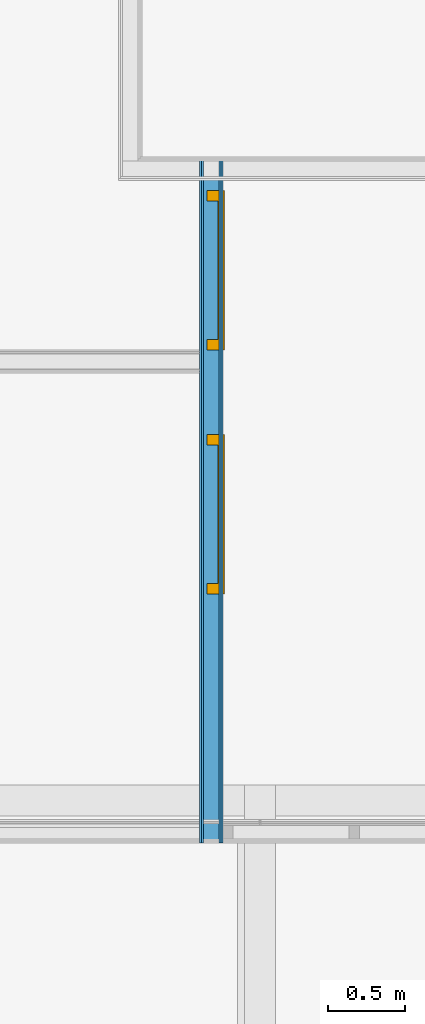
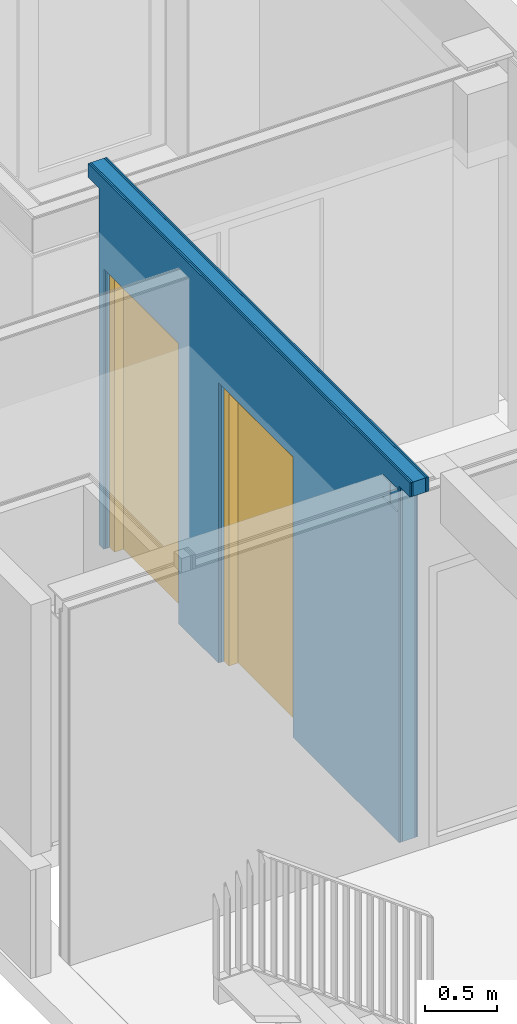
# One storey, part 4 of 13: 5 building element parts, 2 doors, 2 openings, 1 element without a shape of its own.
"""IFC2X3 building model written with IfcOpenShell, lengths in millimetres."""

import ifcopenshell
import ifcopenshell.guid

model = None  # the IFC model being written
_history = None  # IfcOwnerHistory: only IFC2X3 demands one
_inside = {}  # id of a spatial element -> (the spatial element, [elements in it])
_under = {}  # id of a project, library or spatial element -> (it, [spatial elements below it])
_declared = {}  # id of a project -> (the project, [libraries it declares])
_typed = {}  # id of a type object -> (the type object, [elements of that type])
_made_of = {}  # id of a material, layer set ... -> (it, [elements and type objects made of it])


def new_model(schema):
    """Start an empty IFC model of exactly this schema.

    Asked for "IFC4X3", IfcOpenShell would pick the latest addendum, in which some entities
    have other attributes; the version numbers below select the first issue.
    IFC2X3 requires an IfcOwnerHistory on every rooted entity: one is made here for all.
    """
    global model, _history
    if schema == "IFC4X3":
        model = ifcopenshell.file(schema_version=(4, 3, 0, 0))
    else:
        model = ifcopenshell.file(schema=schema)
    _inside.clear()
    _under.clear()
    _declared.clear()
    _typed.clear()
    _made_of.clear()
    _history = None
    if model.schema == "IFC2X3":
        org = make("IfcOrganization", Name="unknown")
        user = make(
            "IfcPersonAndOrganization",
            ThePerson=make("IfcPerson", FamilyName="unknown"),
            TheOrganization=org,
        )
        app = make(
            "IfcApplication",
            ApplicationDeveloper=org,
            Version="unknown",
            ApplicationFullName="unknown",
            ApplicationIdentifier="unknown",
        )
        _history = make(
            "IfcOwnerHistory",
            OwningUser=user,
            OwningApplication=app,
            ChangeAction="ADDED",
            CreationDate=0,
        )
    return model


def make(cls, **values):
    """One entity of the class cls with the attributes given. An attribute that is None is left unset."""
    return model.create_entity(
        cls, **{name: value for name, value in values.items() if value is not None}
    )


def entity(cls, *values):
    """Any entity or typed value of the class cls, its attributes in the order of the schema. None: left unset."""
    e = model.create_entity(cls)
    for i, value in enumerate(values):
        if value is not None:
            e[i] = value
    return e


def rooted(cls, **values):
    """An entity with a GlobalId (a new one), such as an element, a storey or a relation."""
    return make(cls, GlobalId=ifcopenshell.guid.new(), OwnerHistory=_history, **values)


def si_unit(unit_type, name, prefix=None):
    """IfcSIUnit, for example si_unit("LENGTHUNIT", "METRE", prefix="MILLI")."""
    return make("IfcSIUnit", UnitType=unit_type, Prefix=prefix, Name=name)


def converted_unit(unit_type, name, factor, base, dimensions=None, offset=None):
    """IfcConversionBasedUnit, such as the inch: factor (a typed value) times the base unit."""
    return make(
        "IfcConversionBasedUnit"
        if offset is None
        else "IfcConversionBasedUnitWithOffset",
        ConversionOffset=offset,
        Dimensions=None
        if dimensions is None
        else entity("IfcDimensionalExponents", *dimensions),
        UnitType=unit_type,
        Name=name,
        ConversionFactor=make(
            "IfcMeasureWithUnit", ValueComponent=factor, UnitComponent=base
        ),
    )


def derived_unit(unit_type, elements):
    """IfcDerivedUnit: a product of units, each with its exponent."""
    return make(
        "IfcDerivedUnit",
        Elements=[
            make("IfcDerivedUnitElement", Unit=unit, Exponent=power)
            for unit, power in elements
        ],
        UnitType=unit_type,
    )


def money_unit(currency):
    """IfcMonetaryUnit."""
    return make("IfcMonetaryUnit", Currency=currency)


def assignment(units):
    """IfcUnitAssignment: the units of a project."""
    return None if units is None else make("IfcUnitAssignment", Units=units)


def point(xyz):
    """IfcCartesianPoint."""
    return None if xyz is None else make("IfcCartesianPoint", Coordinates=xyz)


def direction(xyz):
    """IfcDirection."""
    return None if xyz is None else make("IfcDirection", DirectionRatios=xyz)


def frame(location, z_axis=None, x_axis=None):
    """IfcAxis2Placement3D, a coordinate frame: its origin and axes. An axis left out is left unset."""
    return make(
        "IfcAxis2Placement3D",
        Location=point(location),
        Axis=direction(z_axis),
        RefDirection=direction(x_axis),
    )


def origin_with_axes():
    """The frame at (0, 0, 0) with the z axis (0, 0, 1) and the x axis (1, 0, 0) written out."""
    return frame((0.0, 0.0, 0.0), z_axis=(0.0, 0.0, 1.0), x_axis=(1.0, 0.0, 0.0))


def place(relative_to, where):
    """IfcLocalPlacement: puts the frame where relative to a parent placement (None: the world)."""
    return make(
        "IfcLocalPlacement", PlacementRelTo=relative_to, RelativePlacement=where
    )


def context(
    kind, dimensions, precision=None, world=None, true_north=None, identifier=None
):
    """IfcGeometricRepresentationContext, for example the 3D "Model" context."""
    return make(
        "IfcGeometricRepresentationContext",
        ContextIdentifier=identifier,
        ContextType=kind,
        CoordinateSpaceDimension=dimensions,
        Precision=precision,
        WorldCoordinateSystem=world,
        TrueNorth=true_north,
    )


def subcontext(parent, identifier, kind, view, scale=None):
    """IfcGeometricRepresentationSubContext, for example "Body" below "Model"."""
    return make(
        "IfcGeometricRepresentationSubContext",
        ContextIdentifier=identifier,
        ContextType=kind,
        ParentContext=parent,
        TargetScale=scale,
        TargetView=view,
    )


def project(units=None, contexts=None):
    """IfcProject with its units and contexts."""
    return rooted(
        "IfcProject",
        Name="project",
        RepresentationContexts=contexts,
        UnitsInContext=assignment(units),
    )


def spatial(cls, under=None, at=None, **own):
    """A site, building, storey or space (cls), placed at a placement, below another one or the project."""
    s = rooted(cls, ObjectPlacement=at, **own)
    if under is not None:
        _under.setdefault(under.id(), (under, []))[1].append(s)
    return s


def faces_of(points, faces, orient=None, outer=None):
    """IfcFace entities. A face is a list of loops; a loop is a list of indices into points, from 0.

    orient and outer hold one flag for each loop. By default every Orientation is true, the
    first loop of a face is its IfcFaceOuterBound and the others are IfcFaceBound.
    """
    made = []
    for i, loops in enumerate(faces):
        bounds = []
        for j, loop in enumerate(loops):
            is_outer = j == 0 if outer is None else outer[i][j]
            bounds.append(
                make(
                    "IfcFaceOuterBound" if is_outer else "IfcFaceBound",
                    Bound=make("IfcPolyLoop", Polygon=[points[k] for k in loop]),
                    Orientation=True if orient is None else orient[i][j],
                )
            )
        made.append(make("IfcFace", Bounds=bounds))
    return made


def faceted_brep(points, faces, orient=None, outer=None, voids=None):
    """IfcFacetedBrep: a solid bounded by flat faces; with voids (closed shells), ...WithVoids."""
    shared = [point(p) for p in points]
    hull = make("IfcClosedShell", CfsFaces=faces_of(shared, faces, orient, outer))
    if voids is None:
        return make("IfcFacetedBrep", Outer=hull)
    return make(
        "IfcFacetedBrepWithVoids",
        Outer=hull,
        Voids=[
            make(cls, CfsFaces=faces_of(shared, fs, o, b)) for cls, fs, o, b in voids
        ],
    )


def shape(context_of_items, identifier, shape_type, items):
    """IfcShapeRepresentation: the items that make up one representation, for example the "Body"."""
    return make(
        "IfcShapeRepresentation",
        ContextOfItems=context_of_items,
        RepresentationIdentifier=identifier,
        RepresentationType=shape_type,
        Items=items,
    )


def source(mapping_origin, context_of_items, identifier, shape_type, items):
    """IfcRepresentationMap: a shape defined once, which mapped items show again and again."""
    return make(
        "IfcRepresentationMap",
        MappingOrigin=mapping_origin,
        MappedRepresentation=shape(context_of_items, identifier, shape_type, items),
    )


def transform(
    local_origin,
    x_axis=None,
    y_axis=None,
    z_axis=None,
    scale=None,
    scale2=None,
    scale3=None,
    uniform=True,
):
    """IfcCartesianTransformationOperator3D, or its non-uniform kind. x_axis, y_axis, z_axis: its Axis1, 2, 3."""
    if uniform:
        return make(
            "IfcCartesianTransformationOperator3D",
            Axis1=direction(x_axis),
            Axis2=direction(y_axis),
            LocalOrigin=point(local_origin),
            Scale=scale,
            Axis3=direction(z_axis),
        )
    return make(
        "IfcCartesianTransformationOperator3DnonUniform",
        Axis1=direction(x_axis),
        Axis2=direction(y_axis),
        LocalOrigin=point(local_origin),
        Scale=scale,
        Axis3=direction(z_axis),
        Scale2=scale2,
        Scale3=scale3,
    )


def mapped(mapping_source, mapping_target):
    """IfcMappedItem: shows the shape of a source again, moved by a transform."""
    return make(
        "IfcMappedItem", MappingSource=mapping_source, MappingTarget=mapping_target
    )


def material(Name=None, Category=None):
    """IfcMaterial."""
    return make("IfcMaterial", Name=Name, Category=Category)


def made_of(thing, what):
    """Note that an element or type object is made of a material, layer set ...; save() writes the relation."""
    if what is not None:
        _made_of.setdefault(what.id(), (what, []))[1].append(thing)
    return thing


def type_object(cls, material=None, **own):
    """A type object (cls), such as IfcWallType, which elements share."""
    return made_of(rooted(cls, **own), material)


def type_shapes(of_type, sources):
    """Give a type object the sources (RepresentationMaps) that its elements show as mapped items."""
    of_type.RepresentationMaps = sources


def element(
    cls,
    number,
    at=None,
    inside=None,
    cuts=None,
    type_object=None,
    material=None,
    context=None,
    identifier="Body",
    shape_type=None,
    held_by="IfcProductDefinitionShape",
    body=None,
    shapes=None,
    **own,
):
    """One element of the class cls, such as IfcWall. Its Tag is "e" and its number.

    at: its placement. inside: the storey or other place that contains it. cuts: it is an
    opening in that element (IfcRelVoidsElement). A single representation is given by context,
    identifier, shape_type and body (its items); several are given by shapes. held_by: the class
    of the entity that holds the representations. save() writes the other relations.
    """
    e = rooted(cls, Tag="e%d" % number, ObjectPlacement=at, **own)
    if body is not None:
        shapes = [shape(context, identifier, shape_type, body)]
    if shapes is not None:
        e.Representation = make(held_by, Representations=shapes)
    if inside is not None:
        _inside.setdefault(inside.id(), (inside, []))[1].append(e)
    if cuts is not None:
        rooted(
            "IfcRelVoidsElement", RelatingBuildingElement=cuts, RelatedOpeningElement=e
        )
    if type_object is not None:
        _typed.setdefault(type_object.id(), (type_object, []))[1].append(e)
    return made_of(e, material)


def fill(opening, filler):
    """IfcRelFillsElement: the door or window that sits in an opening."""
    return rooted(
        "IfcRelFillsElement",
        RelatingOpeningElement=opening,
        RelatedBuildingElement=filler,
    )


def aggregate(whole, parts):
    """IfcRelAggregates: a whole, such as a stair, and the parts it consists of."""
    return rooted("IfcRelAggregates", RelatingObject=whole, RelatedObjects=parts)


def save(model, path):
    """Write the relations noted so far, then the file.

    IfcRelAggregates (storeys below a building ...), IfcRelContainedInSpatialStructure (elements
    in a storey), IfcRelDefinesByType, IfcRelAssociatesMaterial and IfcRelDeclares: one each for
    every whole, place, type object, material and project.
    """
    for whole, parts in _under.values():
        aggregate(whole, parts)
    for where, things in _inside.values():
        rooted(
            "IfcRelContainedInSpatialStructure",
            RelatedElements=things,
            RelatingStructure=where,
        )
    for kind, things in _typed.values():
        rooted("IfcRelDefinesByType", RelatedObjects=things, RelatingType=kind)
    for what, things in _made_of.values():
        rooted("IfcRelAssociatesMaterial", RelatedObjects=things, RelatingMaterial=what)
    for by, libraries in _declared.values():
        rooted("IfcRelDeclares", RelatingContext=by, RelatedDefinitions=libraries)
    model.write(path)


model = new_model("IFC2X3")

# Units and contexts
model_context = context("Model", 3, precision=0.01, world=origin_with_axes(), true_north=direction((0.0, 1.0)))
body_context = subcontext(model_context, "Body", "Model", "MODEL_VIEW")
ifc_project = project(units=[si_unit("LENGTHUNIT", "METRE", prefix="MILLI"), si_unit("AREAUNIT", "SQUARE_METRE"), si_unit("VOLUMEUNIT", "CUBIC_METRE"), converted_unit("PLANEANGLEUNIT", "DEGREE", entity("IfcPlaneAngleMeasure", 0.0174532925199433), si_unit("PLANEANGLEUNIT", "RADIAN"), dimensions=[0, 0, 0, 0, 0, 0, 0]), money_unit("EUR"), converted_unit("TIMEUNIT", "Year", entity("IfcTimeMeasure", 31557600.0), si_unit("TIMEUNIT", "SECOND"), dimensions=[0, 0, 1, 0, 0, 0, 0]), si_unit("MASSUNIT", "GRAM", prefix="KILO"), si_unit("THERMODYNAMICTEMPERATUREUNIT", "DEGREE_CELSIUS"), si_unit("LUMINOUSINTENSITYUNIT", "LUMEN"), si_unit("ENERGYUNIT", "JOULE", prefix="MEGA"), derived_unit("THERMALCONDUCTANCEUNIT", [(si_unit("POWERUNIT", "WATT"), 1), (si_unit("LENGTHUNIT", "METRE"), -1), (si_unit("THERMODYNAMICTEMPERATUREUNIT", "KELVIN"), -1)]), derived_unit("SPECIFICHEATCAPACITYUNIT", [(si_unit("ENERGYUNIT", "JOULE"), 1), (si_unit("MASSUNIT", "GRAM", prefix="KILO"), -1), (si_unit("THERMODYNAMICTEMPERATUREUNIT", "KELVIN"), -1)]), derived_unit("MASSDENSITYUNIT", [(si_unit("MASSUNIT", "GRAM", prefix="KILO"), 1), (si_unit("VOLUMEUNIT", "CUBIC_METRE"), -1)])], contexts=[model_context])

# Site, building, storey
site_placement = place(None, origin_with_axes())
site = spatial("IfcSite", under=ifc_project, at=site_placement, Name="<site naam>", CompositionType="ELEMENT")
building_placement = place(site_placement, origin_with_axes())
building = spatial("IfcBuilding", under=site, at=building_placement, Name="<Naam gebouw>", CompositionType="ELEMENT")
storey_placement = place(building_placement, frame((0.0, 0.0, 3188.0), z_axis=(0.0, 0.0, 1.0), x_axis=(1.0, 0.0, 0.0)))
storey = spatial("IfcBuildingStorey", under=building, at=storey_placement, Name="01 1e tussenverdieping", CompositionType="ELEMENT", Elevation=3188.0)

# Door
door_style = type_object("IfcDoorStyle", Name="D1 27", ConstructionType="NOTDEFINED", OperationType="SINGLE_SWING_LEFT", ParameterTakesPrecedence=False, Sizeable=False)
shared_shape = source(origin_with_axes(), body_context, "Body", "Brep", [
    faceted_brep([(449.9999999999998, -40.0, 0.0), (450.0, -114.0, 0.0), (450.0, -114.0, 2300.0), (450.0, -39.99999999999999, 2300.0), (467.0, -40.0, 0.0), (467.0, 0.0, 0.0), (517.0, 0.0, 0.0), (517.0, -114.0, 0.0), (517.0, -114.0, 2300.0), (467.0, -40.0, 2300.0), (517.0, 0.0, 2300.0), (467.0, 0.0, 2300.0)], [[[0, 1, 2, 3]], [[4, 5, 6, 7, 1, 0]], [[1, 7, 8, 2]], [[9, 3, 2, 8, 10, 11]], [[9, 4, 0, 3]], [[11, 5, 4, 9]], [[11, 10, 6, 5]], [[6, 10, 8, 7]]]),
    faceted_brep([(-467.0, -40.0, 2300.0), (-467.0, 0.0, 2300.0), (-517.0, 0.0, 2300.0), (-517.0, -114.0, 2300.0), (-450.0, -114.0, 2300.0), (-450.0, -39.99999999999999, 2300.0), (-467.0, -40.0, 0.0), (-467.0, 0.0, 0.0), (-517.0, 0.0, 0.0), (-517.0, -114.0, 0.0), (-450.0, -114.0, 0.0), (-450.0, -40.0, 0.0)], [[[0, 1, 2, 3, 4, 5]], [[0, 6, 7, 1]], [[7, 8, 2, 1]], [[2, 8, 9, 3]], [[3, 9, 10, 4]], [[5, 4, 10, 11]], [[5, 11, 6, 0]], [[6, 11, 10, 9, 8, 7]]]),
    faceted_brep([(467.0, 0.0, 2317.0), (-467.0, 0.0, 2317.0), (-467.0, 0.0, 2300.0), (-517.0, 0.0, 2300.0), (-517.0, 0.0, 2367.0), (517.0, 0.0, 2367.0), (517.0, 0.0, 2300.0), (467.0, 0.0, 2300.0), (467.0, -40.0, 2317.0), (-467.0, -40.0, 2317.0), (-467.0, -40.0, 2300.0), (-450.0, -39.99999999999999, 2300.0), (-450.0, -114.0, 2300.0), (-517.0, -114.0, 2300.0), (-517.0, -114.0, 2367.0), (517.0, -114.0, 2367.0), (517.0, -114.0, 2300.0), (467.0, -40.0, 2300.0), (450.0, -114.0, 2300.0), (450.0, -39.99999999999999, 2300.0)], [[[0, 1, 2, 3, 4, 5, 6, 7]], [[0, 8, 9, 1]], [[1, 9, 10, 2]], [[10, 11, 12, 13, 3, 2]], [[4, 3, 13, 14]], [[5, 4, 14, 15]], [[6, 5, 15, 16]], [[17, 7, 6, 16, 18, 19]], [[7, 17, 8, 0]], [[10, 9, 8, 17, 19, 11]], [[19, 18, 12, 11]], [[12, 18, 16, 15, 14, 13]]]),
    faceted_brep([(-467.0000000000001, 0.0, 0.0), (467.0, 0.0, 0.0), (467.0, -40.0, 0.0), (-467.0000000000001, -40.0, 0.0), (-467.0000000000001, 0.0, 2317.0), (467.0, 0.0, 2317.0), (467.0, -40.00000000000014, 2317.0), (-467.0000000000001, -40.00000000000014, 2317.0)], [[[0, 1, 2, 3]], [[0, 4, 5, 1]], [[1, 5, 6, 2]], [[3, 2, 6, 7]], [[4, 0, 3, 7]], [[5, 4, 7, 6]]]),
])
type_shapes(door_style, [shared_shape])
wall_placement = place(storey_placement, frame((54925.00000318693, 16175.00000000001, 0.0), z_axis=(0.0, 0.0, 1.0), x_axis=(0.0, -1.0, 0.0)))
opening_1_placement = place(wall_placement, frame((2317.004634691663, 0.0, 0.0), z_axis=(0.0, 0.0, 1.0), x_axis=(1.0, 0.0, 0.0)))
door_1_placement = place(opening_1_placement, frame((-449.9999999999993, 0.0, 0.0), z_axis=(0.0, 0.0, 1.0), x_axis=(1.0, 0.0, 0.0)))
door_1 = element("IfcDoor", 1, at=door_1_placement, inside=storey, type_object=door_style, Name="22_BI-A-04_305", ObjectType="DOOR", OverallHeight=2367.0, OverallWidth=1034.0, context=body_context, shape_type="MappedRepresentation", body=[
    mapped(shared_shape, transform((449.9999999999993, 84.99999999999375, 0.0))),
])

opening_2_placement = place(wall_placement, frame((733.0046750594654, 0.0, 0.0), z_axis=(0.0, 0.0, 1.0), x_axis=(1.0, 0.0, 0.0)))
door_2_placement = place(opening_2_placement, frame((-449.9999999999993, 0.0, 0.0), z_axis=(0.0, 0.0, 1.0), x_axis=(1.0, 0.0, 0.0)))
door_2 = element("IfcDoor", 2, at=door_2_placement, inside=storey, type_object=door_style, Name="22_BI-A-04_305", ObjectType="DOOR", OverallHeight=2367.0, OverallWidth=1034.0, context=body_context, shape_type="MappedRepresentation", body=[
    mapped(shared_shape, transform((449.9999999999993, 84.99999999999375, 0.0))),
])

# Wall, opening
wall_type = type_object("IfcWallType", Name="MS-01 GF 150 ECO DGS/2.100.2.A 150", PredefinedType="NOTDEFINED")
wall = element("IfcWall", 3, at=wall_placement, inside=storey, type_object=wall_type, Name="22_Binnenwand_MS-01")
opening_1 = element("IfcOpeningElement", 4, at=opening_1_placement, cuts=wall, Name="22_BI-A-04_305", context=body_context, shape_type="Brep", body=[
    faceted_brep([(-516.9999999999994, -76.00000000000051, 2367.0), (-516.9999999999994, -76.00000000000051, 0.0), (516.9999999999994, -76.00000000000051, 0.0), (516.9999999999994, -76.00000000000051, 2367.0), (-516.9999999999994, 76.00000000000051, 2367.0), (-516.9999999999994, 76.00000000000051, 0.0), (516.9999999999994, 76.00000000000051, 0.0), (516.9999999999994, 76.00000000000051, 2367.0)], [[[0, 1, 2, 3]], [[4, 5, 1, 0]], [[5, 6, 2, 1]], [[6, 7, 3, 2]], [[7, 4, 0, 3]], [[6, 5, 4, 7]]]),
])

fill(opening_1, door_1)

# Opening
opening_2 = element("IfcOpeningElement", 5, at=opening_2_placement, cuts=wall, Name="22_BI-A-04_305", context=body_context, shape_type="Brep", body=[
    faceted_brep([(-516.9999999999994, -76.00000000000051, 2367.0), (-516.9999999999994, -76.00000000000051, 0.0), (516.9999999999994, -76.00000000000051, 0.0), (516.9999999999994, -76.00000000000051, 2367.0), (-516.9999999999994, 76.00000000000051, 2367.0), (-516.9999999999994, 76.00000000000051, 0.0), (516.9999999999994, 76.00000000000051, 0.0), (516.9999999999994, 76.00000000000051, 2367.0)], [[[0, 1, 2, 3]], [[4, 5, 1, 0]], [[5, 6, 2, 1]], [[6, 7, 3, 2]], [[7, 4, 0, 3]], [[6, 5, 4, 7]]]),
])

fill(opening_2, door_2)

# Building element part
ifc_material_1 = material(Name="gipsplaat")
building_element_part_1_placement = place(wall_placement, origin_with_axes())
building_element_part_1 = element("IfcBuildingElementPart", 6, at=building_element_part_1_placement, material=ifc_material_1, Name="gipsplaat", context=body_context, shape_type="Brep", body=[
    faceted_brep([(4449.999999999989, 49.99999999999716, 3127.0), (0.0, 49.99999999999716, 3127.000000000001), (0.0, 49.99999999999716, 3006.999999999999), (149.9999999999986, 49.99999999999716, 3006.999999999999), (149.9999999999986, 49.99999999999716, 0.0), (216.0092620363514, 49.99999999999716, 0.0), (216.0092620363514, 49.99999999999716, 3.000000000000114), (1248.304861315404, 49.99999999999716, 3.000000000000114), (1248.304861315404, 49.99999999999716, 0.0), (1800.009285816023, 49.99999999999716, 0.0), (1800.009285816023, 49.99999999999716, 3.000000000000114), (2834.009281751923, 49.99999999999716, 3.000000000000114), (2834.009281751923, 49.99999999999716, 0.0), (4299.999999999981, 49.99999999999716, 0.0), (4299.999999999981, 49.99999999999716, 3006.999999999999), (4449.999999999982, 49.99999999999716, 3006.999999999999), (4170.499989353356, 49.99999999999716, 2961.999993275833), (4074.999986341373, 49.99999999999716, 2961.999993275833), (4074.999986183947, 49.99999999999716, 2977.000000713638), (4274.999992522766, 49.99999999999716, 2977.000000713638), (4274.999992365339, 49.99999999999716, 2961.999993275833), (4179.499989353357, 49.99999999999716, 2961.999993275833), (4179.499989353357, 49.99999999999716, 2791.999999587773), (4274.999992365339, 49.99999999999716, 2791.999999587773), (4274.999992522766, 49.99999999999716, 2776.999992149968), (4074.999986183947, 49.99999999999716, 2776.999992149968), (4074.999986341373, 49.99999999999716, 2791.999999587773), (4170.499989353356, 49.99999999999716, 2791.999999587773), (4449.999999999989, 62.5, 3127.0), (0.0, 62.5, 3127.000000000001), (0.0, 62.5, 3006.999999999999), (149.9999999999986, 62.5, 3006.999999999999), (149.9999999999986, 62.5, 0.0), (216.0092620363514, 62.5, 0.0), (216.0092620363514, 62.5, 3.000000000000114), (1248.304861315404, 62.5, 3.000000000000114), (1248.304861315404, 62.5, 0.0), (1800.009285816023, 62.5, 0.0), (1800.009285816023, 62.5, 3.000000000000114), (2834.009281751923, 62.5, 3.000000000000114), (2834.009281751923, 62.5, 0.0), (4299.999999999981, 62.5, 0.0), (4299.999999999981, 62.5, 3006.999999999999), (4449.999999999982, 62.5, 3006.999999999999), (4170.499989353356, 62.5, 2961.999993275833), (4074.999986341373, 62.5, 2961.999993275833), (4074.999986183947, 62.5, 2977.000000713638), (4274.999992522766, 62.5, 2977.000000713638), (4274.999992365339, 62.5, 2961.999993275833), (4179.499989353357, 62.5, 2961.999993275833), (4179.499989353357, 62.5, 2791.999999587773), (4274.999992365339, 62.5, 2791.999999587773), (4274.999992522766, 62.5, 2776.999992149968), (4074.999986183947, 62.5, 2776.999992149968), (4074.999986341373, 62.5, 2791.999999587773), (4170.499989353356, 62.5, 2791.999999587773)], [[[0, 1, 2, 3, 4, 5, 6, 7, 8, 9, 10, 11, 12, 13, 14, 15], [16, 17, 18, 19, 20, 21, 22, 23, 24, 25, 26, 27]], [[28, 29, 1, 0]], [[2, 1, 29, 30]], [[2, 30, 31, 3]], [[4, 3, 31, 32]], [[32, 33, 5, 4]], [[5, 33, 34, 6]], [[6, 34, 35, 7]], [[7, 35, 36, 8]], [[36, 37, 9, 8]], [[9, 37, 38, 10]], [[10, 38, 39, 11]], [[11, 39, 40, 12]], [[13, 12, 40, 41]], [[14, 13, 41, 42]], [[43, 15, 14, 42]], [[28, 0, 15, 43]], [[44, 45, 17, 16]], [[45, 46, 18, 17]], [[46, 47, 19, 18]], [[47, 48, 20, 19]], [[48, 49, 21, 20]], [[49, 50, 22, 21]], [[50, 51, 23, 22]], [[51, 52, 24, 23]], [[52, 53, 25, 24]], [[53, 54, 26, 25]], [[54, 55, 27, 26]], [[55, 44, 16, 27]], [[30, 29, 28, 43, 42, 41, 40, 39, 38, 37, 36, 35, 34, 33, 32, 31], [48, 47, 46, 45, 44, 55, 54, 53, 52, 51, 50, 49]]]),
])

ifc_material_2 = material(Name="isolatie_steenwol LSW")
building_element_part_2_placement = place(wall_placement, origin_with_axes())
building_element_part_2 = element("IfcBuildingElementPart", 7, at=building_element_part_2_placement, material=ifc_material_2, Name="isolatie_steenwol LSW", context=body_context, shape_type="Brep", body=[
    faceted_brep([(4449.999999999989, -49.99999999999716, 3127.0), (0.0, -49.99999999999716, 3127.000000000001), (0.0, -49.99999999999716, 3006.999999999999), (149.9999999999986, -49.99999999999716, 3006.999999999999), (149.9999999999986, -49.99999999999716, 0.0), (216.0092620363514, -49.99999999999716, 0.0), (216.0092620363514, -49.99999999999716, 3.000000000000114), (1248.304861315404, -49.99999999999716, 3.000000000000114), (1248.304861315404, -49.99999999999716, 0.0), (1800.009285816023, -49.99999999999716, 0.0), (1800.009285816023, -49.99999999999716, 3.000000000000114), (2834.009281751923, -49.99999999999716, 3.000000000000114), (2834.009281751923, -49.99999999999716, 0.0), (4299.999999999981, -49.99999999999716, 0.0), (4299.999999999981, -49.99999999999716, 3006.999999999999), (4449.999999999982, -49.99999999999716, 3006.999999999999), (4170.499989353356, -49.99999999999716, 2961.999993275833), (4074.999986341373, -49.99999999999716, 2961.999993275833), (4074.999986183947, -49.99999999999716, 2977.000000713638), (4274.999992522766, -49.99999999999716, 2977.000000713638), (4274.999992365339, -49.99999999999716, 2961.999993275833), (4179.499989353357, -49.99999999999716, 2961.999993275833), (4179.499989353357, -49.99999999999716, 2791.999999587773), (4274.999992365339, -49.99999999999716, 2791.999999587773), (4274.999992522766, -49.99999999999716, 2776.999992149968), (4074.999986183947, -49.99999999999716, 2776.999992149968), (4074.999986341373, -49.99999999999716, 2791.999999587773), (4170.499989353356, -49.99999999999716, 2791.999999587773), (4449.999999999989, 49.99999999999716, 3127.0), (0.0, 49.99999999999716, 3127.000000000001), (0.0, 49.99999999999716, 3006.999999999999), (149.9999999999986, 49.99999999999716, 3006.999999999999), (149.9999999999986, 50.00000000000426, 0.0), (216.0092620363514, 50.00000000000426, 0.0), (216.0092620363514, 50.00000000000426, 3.000000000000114), (1248.304861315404, 50.00000000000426, 3.000000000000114), (1248.304861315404, 50.00000000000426, 0.0), (1800.009285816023, 50.00000000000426, 0.0), (1800.009285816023, 50.00000000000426, 3.000000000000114), (2834.009281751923, 50.00000000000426, 3.000000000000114), (2834.009281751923, 49.99999999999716, 0.0), (4299.999999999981, 49.99999999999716, 0.0), (4299.999999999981, 49.99999999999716, 3006.999999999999), (4449.999999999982, 49.99999999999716, 3006.999999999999), (4170.499989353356, 49.99999999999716, 2961.999993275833), (4074.999986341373, 49.99999999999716, 2961.999993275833), (4074.999986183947, 49.99999999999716, 2977.000000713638), (4274.999992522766, 49.99999999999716, 2977.000000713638), (4274.999992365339, 49.99999999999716, 2961.999993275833), (4179.499989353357, 49.99999999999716, 2961.999993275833), (4179.499989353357, 49.99999999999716, 2791.999999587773), (4274.999992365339, 49.99999999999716, 2791.999999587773), (4274.999992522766, 49.99999999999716, 2776.999992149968), (4074.999986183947, 49.99999999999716, 2776.999992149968), (4074.999986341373, 49.99999999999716, 2791.999999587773), (4170.499989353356, 49.99999999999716, 2791.999999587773)], [[[0, 1, 2, 3, 4, 5, 6, 7, 8, 9, 10, 11, 12, 13, 14, 15], [16, 17, 18, 19, 20, 21, 22, 23, 24, 25, 26, 27]], [[28, 29, 1, 0]], [[2, 1, 29, 30]], [[2, 30, 31, 3]], [[4, 3, 31, 32]], [[32, 33, 5, 4]], [[5, 33, 34, 6]], [[6, 34, 35, 7]], [[7, 35, 36, 8]], [[36, 37, 9, 8]], [[9, 37, 38, 10]], [[10, 38, 39, 11]], [[11, 39, 40, 12]], [[13, 12, 40, 41]], [[14, 13, 41, 42]], [[43, 15, 14, 42]], [[28, 0, 15, 43]], [[44, 45, 17, 16]], [[45, 46, 18, 17]], [[46, 47, 19, 18]], [[47, 48, 20, 19]], [[48, 49, 21, 20]], [[49, 50, 22, 21]], [[50, 51, 23, 22]], [[51, 52, 24, 23]], [[52, 53, 25, 24]], [[53, 54, 26, 25]], [[54, 55, 27, 26]], [[55, 44, 16, 27]], [[30, 29, 28, 43, 42, 41, 40, 39, 38, 37, 36, 35, 34, 33, 32, 31], [48, 47, 46, 45, 44, 55, 54, 53, 52, 51, 50, 49]]]),
])

building_element_part_3_placement = place(wall_placement, origin_with_axes())
building_element_part_3 = element("IfcBuildingElementPart", 8, at=building_element_part_3_placement, material=ifc_material_1, Name="gipsplaat", context=body_context, shape_type="Brep", body=[
    faceted_brep([(4449.999999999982, 62.5, 3006.999999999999), (4449.999999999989, 62.5, 3127.0), (0.0, 62.5, 3127.000000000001), (0.0, 62.5, 3006.999999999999), (149.9999999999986, 62.5, 3006.999999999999), (149.9999999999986, 62.5, 0.0), (216.0092620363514, 62.5, 0.0), (216.0092620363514, 62.5, 3.000000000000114), (1248.304861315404, 62.5, 3.000000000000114), (1248.304861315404, 62.5, 0.0), (1800.009285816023, 62.5, 0.0), (1800.009285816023, 62.5, 3.000000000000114), (2834.009281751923, 62.5, 3.000000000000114), (2834.009281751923, 62.5, 0.0), (4299.999999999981, 62.5, 0.0), (4299.999999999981, 62.5, 3006.999999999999), (4170.499989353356, 62.5, 2791.999999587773), (4170.499989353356, 62.5, 2961.999993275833), (4074.999986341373, 62.5, 2961.999993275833), (4074.999986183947, 62.5, 2977.000000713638), (4274.999992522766, 62.5, 2977.000000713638), (4274.999992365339, 62.5, 2961.999993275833), (4179.499989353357, 62.5, 2961.999993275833), (4179.499989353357, 62.5, 2791.999999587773), (4274.999992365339, 62.5, 2791.999999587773), (4274.999992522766, 62.5, 2776.999992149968), (4074.999986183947, 62.5, 2776.999992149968), (4074.999986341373, 62.5, 2791.999999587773), (4449.999999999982, 75.00000000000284, 3006.999999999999), (4449.999999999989, 75.00000000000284, 3127.0), (0.0, 75.00000000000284, 3127.000000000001), (0.0, 75.00000000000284, 3006.999999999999), (149.9999999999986, 75.00000000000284, 3006.999999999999), (149.9999999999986, 75.00000000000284, 0.0), (4299.999999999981, 75.00000000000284, 0.0), (2834.009281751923, 74.83591347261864, 0.0), (1800.009285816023, 74.83591347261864, 0.0), (1248.304861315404, 74.73782256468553, 0.0), (216.0092620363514, 74.73782256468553, 0.0), (216.0092620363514, 74.73782256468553, 3.000000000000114), (1248.304861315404, 74.73782256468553, 3.000000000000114), (1800.009285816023, 74.83591347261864, 3.000000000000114), (2834.009281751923, 74.83591347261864, 3.000000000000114), (4299.999999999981, 75.00000000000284, 3006.999999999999), (4170.499989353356, 75.00000000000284, 2791.999999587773), (4170.499989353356, 75.00000000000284, 2961.999993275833), (4074.999986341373, 75.00000000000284, 2961.999993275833), (4074.999986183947, 75.00000000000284, 2977.000000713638), (4274.999992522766, 75.00000000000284, 2977.000000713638), (4274.999992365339, 75.00000000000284, 2961.999993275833), (4179.499989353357, 75.00000000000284, 2961.999993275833), (4179.499989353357, 75.00000000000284, 2791.999999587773), (4274.999992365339, 75.00000000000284, 2791.999999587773), (4274.999992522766, 75.00000000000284, 2776.999992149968), (4074.999986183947, 75.00000000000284, 2776.999992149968), (4074.999986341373, 75.00000000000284, 2791.999999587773)], [[[0, 1, 2, 3, 4, 5, 6, 7, 8, 9, 10, 11, 12, 13, 14, 15], [16, 17, 18, 19, 20, 21, 22, 23, 24, 25, 26, 27]], [[28, 29, 1, 0]], [[1, 29, 30, 2]], [[31, 3, 2, 30]], [[4, 3, 31, 32]], [[33, 5, 4, 32]], [[34, 14, 13, 35, 36, 10, 9, 37, 38, 6, 5, 33]], [[39, 7, 6, 38]], [[39, 40, 8, 7]], [[8, 40, 37, 9]], [[41, 11, 10, 36]], [[41, 42, 12, 11]], [[12, 42, 35, 13]], [[43, 15, 14, 34]], [[43, 28, 0, 15]], [[16, 44, 45, 17]], [[17, 45, 46, 18]], [[18, 46, 47, 19]], [[19, 47, 48, 20]], [[20, 48, 49, 21]], [[21, 49, 50, 22]], [[22, 50, 51, 23]], [[23, 51, 52, 24]], [[24, 52, 53, 25]], [[25, 53, 54, 26]], [[26, 54, 55, 27]], [[27, 55, 44, 16]], [[32, 31, 30, 29, 28, 43, 34, 33], [50, 49, 48, 47, 46, 45, 44, 55, 54, 53, 52, 51]], [[42, 41, 36, 35]], [[40, 39, 38, 37]]]),
])

building_element_part_4_placement = place(wall_placement, origin_with_axes())
building_element_part_4 = element("IfcBuildingElementPart", 9, at=building_element_part_4_placement, material=ifc_material_1, Name="gipsplaat", context=body_context, shape_type="Brep", body=[
    faceted_brep([(4449.999999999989, -75.00000000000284, 3127.0), (0.0, -75.00000000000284, 3127.000000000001), (0.0, -75.00000000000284, 3006.999999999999), (149.9999999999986, -75.00000000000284, 3006.999999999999), (149.9999999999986, -75.00000000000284, 0.0), (216.0092620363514, -75.00000000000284, 0.0), (216.0092620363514, -75.00000000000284, 3.000000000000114), (1248.304861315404, -75.00000000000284, 3.000000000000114), (1248.304861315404, -75.00000000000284, 0.0), (1800.009285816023, -75.00000000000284, 0.0), (1800.009285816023, -75.00000000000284, 3.000000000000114), (2834.009281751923, -75.00000000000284, 3.000000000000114), (2834.009281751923, -75.00000000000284, 0.0), (4299.999999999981, -75.00000000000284, 0.0), (4299.999999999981, -75.00000000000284, 3006.999999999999), (4449.999999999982, -75.00000000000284, 3006.999999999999), (4170.499989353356, -75.00000000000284, 2961.999993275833), (4074.999986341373, -75.00000000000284, 2961.999993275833), (4074.999986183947, -75.00000000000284, 2977.000000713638), (4274.999992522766, -75.00000000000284, 2977.000000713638), (4274.999992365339, -75.00000000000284, 2961.999993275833), (4179.499989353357, -75.00000000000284, 2961.999993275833), (4179.499989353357, -75.00000000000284, 2791.999999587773), (4274.999992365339, -75.00000000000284, 2791.999999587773), (4274.999992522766, -75.00000000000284, 2776.999992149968), (4074.999986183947, -75.00000000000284, 2776.999992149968), (4074.999986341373, -75.00000000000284, 2791.999999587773), (4170.499989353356, -75.00000000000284, 2791.999999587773), (4449.999999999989, -62.5, 3127.0), (0.0, -62.5, 3127.000000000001), (0.0, -62.5, 3006.999999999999), (149.9999999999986, -62.5, 3006.999999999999), (149.9999999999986, -62.5, 0.0), (216.0092620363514, -62.5, 0.0), (216.0092620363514, -62.5, 3.000000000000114), (1248.304861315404, -62.5, 3.000000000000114), (1248.304861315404, -62.5, 0.0), (1800.009285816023, -62.5, 0.0), (1800.009285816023, -62.5, 3.000000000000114), (2834.009281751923, -62.5, 3.000000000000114), (2834.009281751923, -62.5, 0.0), (4299.999999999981, -62.5, 0.0), (4299.999999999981, -62.5, 3006.999999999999), (4449.999999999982, -62.5, 3006.999999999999), (4170.499989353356, -62.5, 2961.999993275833), (4074.999986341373, -62.5, 2961.999993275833), (4074.999986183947, -62.5, 2977.000000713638), (4274.999992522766, -62.5, 2977.000000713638), (4274.999992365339, -62.5, 2961.999993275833), (4179.499989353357, -62.5, 2961.999993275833), (4179.499989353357, -62.5, 2791.999999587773), (4274.999992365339, -62.5, 2791.999999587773), (4274.999992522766, -62.5, 2776.999992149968), (4074.999986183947, -62.5, 2776.999992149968), (4074.999986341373, -62.5, 2791.999999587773), (4170.499989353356, -62.5, 2791.999999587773)], [[[0, 1, 2, 3, 4, 5, 6, 7, 8, 9, 10, 11, 12, 13, 14, 15], [16, 17, 18, 19, 20, 21, 22, 23, 24, 25, 26, 27]], [[28, 29, 1, 0]], [[2, 1, 29, 30]], [[2, 30, 31, 3]], [[4, 3, 31, 32]], [[32, 33, 5, 4]], [[5, 33, 34, 6]], [[6, 34, 35, 7]], [[7, 35, 36, 8]], [[36, 37, 9, 8]], [[9, 37, 38, 10]], [[10, 38, 39, 11]], [[11, 39, 40, 12]], [[13, 12, 40, 41]], [[14, 13, 41, 42]], [[43, 15, 14, 42]], [[28, 0, 15, 43]], [[44, 45, 17, 16]], [[45, 46, 18, 17]], [[46, 47, 19, 18]], [[47, 48, 20, 19]], [[48, 49, 21, 20]], [[49, 50, 22, 21]], [[50, 51, 23, 22]], [[51, 52, 24, 23]], [[52, 53, 25, 24]], [[53, 54, 26, 25]], [[54, 55, 27, 26]], [[55, 44, 16, 27]], [[30, 29, 28, 43, 42, 41, 40, 39, 38, 37, 36, 35, 34, 33, 32, 31], [48, 47, 46, 45, 44, 55, 54, 53, 52, 51, 50, 49]]]),
])

building_element_part_5_placement = place(wall_placement, origin_with_axes())
building_element_part_5 = element("IfcBuildingElementPart", 10, at=building_element_part_5_placement, material=ifc_material_1, Name="gipsplaat", context=body_context, shape_type="Brep", body=[
    faceted_brep([(4449.999999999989, -62.5, 3127.0), (0.0, -62.5, 3127.000000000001), (0.0, -62.5, 3006.999999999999), (149.9999999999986, -62.5, 3006.999999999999), (149.9999999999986, -62.5, 0.0), (216.0092620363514, -62.5, 0.0), (216.0092620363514, -62.5, 3.000000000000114), (1248.304861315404, -62.5, 3.000000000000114), (1248.304861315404, -62.5, 0.0), (1800.009285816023, -62.5, 0.0), (1800.009285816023, -62.5, 3.000000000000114), (2834.009281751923, -62.5, 3.000000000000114), (2834.009281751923, -62.5, 0.0), (4299.999999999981, -62.5, 0.0), (4299.999999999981, -62.5, 3006.999999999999), (4449.999999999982, -62.5, 3006.999999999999), (4170.499989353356, -62.5, 2961.999993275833), (4074.999986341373, -62.5, 2961.999993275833), (4074.999986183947, -62.5, 2977.000000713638), (4274.999992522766, -62.5, 2977.000000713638), (4274.999992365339, -62.5, 2961.999993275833), (4179.499989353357, -62.5, 2961.999993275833), (4179.499989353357, -62.5, 2791.999999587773), (4274.999992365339, -62.5, 2791.999999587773), (4274.999992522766, -62.5, 2776.999992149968), (4074.999986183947, -62.5, 2776.999992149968), (4074.999986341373, -62.5, 2791.999999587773), (4170.499989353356, -62.5, 2791.999999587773), (4449.999999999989, -49.99999999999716, 3127.0), (0.0, -49.99999999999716, 3127.000000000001), (0.0, -49.99999999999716, 3006.999999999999), (149.9999999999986, -49.99999999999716, 3006.999999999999), (149.9999999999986, -49.99999999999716, 0.0), (216.0092620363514, -49.99999999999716, 0.0), (216.0092620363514, -49.99999999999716, 3.000000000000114), (1248.304861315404, -49.99999999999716, 3.000000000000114), (1248.304861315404, -49.99999999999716, 0.0), (1800.009285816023, -49.99999999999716, 0.0), (1800.009285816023, -49.99999999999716, 3.000000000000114), (2834.009281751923, -49.99999999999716, 3.000000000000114), (2834.009281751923, -49.99999999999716, 0.0), (4299.999999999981, -49.99999999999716, 0.0), (4299.999999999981, -49.99999999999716, 3006.999999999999), (4449.999999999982, -49.99999999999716, 3006.999999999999), (4170.499989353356, -49.99999999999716, 2961.999993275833), (4074.999986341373, -49.99999999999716, 2961.999993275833), (4074.999986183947, -49.99999999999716, 2977.000000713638), (4274.999992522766, -49.99999999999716, 2977.000000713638), (4274.999992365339, -49.99999999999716, 2961.999993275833), (4179.499989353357, -49.99999999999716, 2961.999993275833), (4179.499989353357, -49.99999999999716, 2791.999999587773), (4274.999992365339, -49.99999999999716, 2791.999999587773), (4274.999992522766, -49.99999999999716, 2776.999992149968), (4074.999986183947, -49.99999999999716, 2776.999992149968), (4074.999986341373, -49.99999999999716, 2791.999999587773), (4170.499989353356, -49.99999999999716, 2791.999999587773)], [[[0, 1, 2, 3, 4, 5, 6, 7, 8, 9, 10, 11, 12, 13, 14, 15], [16, 17, 18, 19, 20, 21, 22, 23, 24, 25, 26, 27]], [[28, 29, 1, 0]], [[2, 1, 29, 30]], [[2, 30, 31, 3]], [[4, 3, 31, 32]], [[32, 33, 5, 4]], [[5, 33, 34, 6]], [[6, 34, 35, 7]], [[7, 35, 36, 8]], [[36, 37, 9, 8]], [[9, 37, 38, 10]], [[10, 38, 39, 11]], [[11, 39, 40, 12]], [[13, 12, 40, 41]], [[14, 13, 41, 42]], [[43, 15, 14, 42]], [[28, 0, 15, 43]], [[44, 45, 17, 16]], [[45, 46, 18, 17]], [[46, 47, 19, 18]], [[47, 48, 20, 19]], [[48, 49, 21, 20]], [[49, 50, 22, 21]], [[50, 51, 23, 22]], [[51, 52, 24, 23]], [[52, 53, 25, 24]], [[53, 54, 26, 25]], [[54, 55, 27, 26]], [[55, 44, 16, 27]], [[30, 29, 28, 43, 42, 41, 40, 39, 38, 37, 36, 35, 34, 33, 32, 31], [48, 47, 46, 45, 44, 55, 54, 53, 52, 51, 50, 49]]]),
])

aggregate(wall, [building_element_part_1, building_element_part_2, building_element_part_3, building_element_part_4, building_element_part_5])

save(model, "model.ifc")
